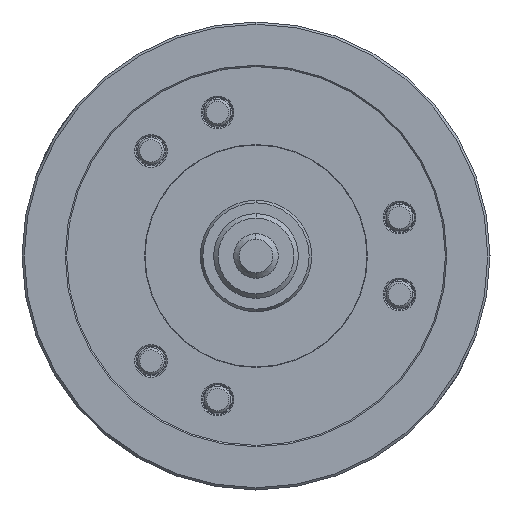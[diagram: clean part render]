
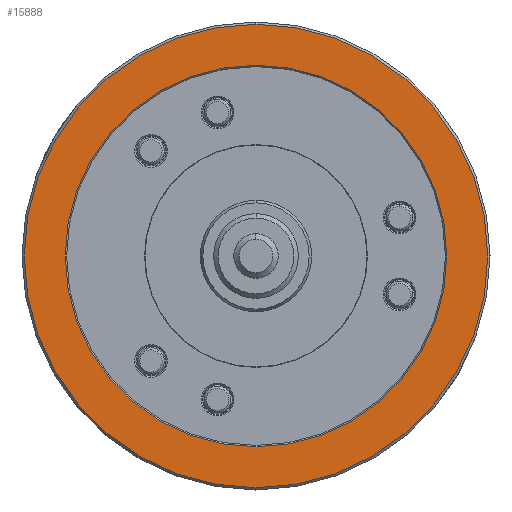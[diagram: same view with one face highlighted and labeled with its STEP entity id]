
A CAD part, left-side view. The second image highlights one B-rep face of the part: STEP entity #15888.
In plain terms, the highlighted planar face has unit normal (-1, 0, 0).
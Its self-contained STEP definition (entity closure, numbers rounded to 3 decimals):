
#1843 = DIRECTION ( 'NONE',  ( 0., 0., -1. ) ) ;
#2706 = CARTESIAN_POINT ( 'NONE',  ( -90., 0., -104. ) ) ;
#4561 = AXIS2_PLACEMENT_3D ( 'NONE', #30879, #33993, #15482 ) ;
#5476 = CIRCLE ( 'NONE', #24970, 85.6 ) ;
#6157 = ORIENTED_EDGE ( 'NONE', *, *, #37778, .F. ) ;
#6802 = EDGE_CURVE ( 'NONE', #14016, #32397, #5476, .T. ) ;
#7999 = CARTESIAN_POINT ( 'NONE',  ( -90., 0., 85.6 ) ) ;
#8230 = CIRCLE ( 'NONE', #18685, 104. ) ;
#8243 = EDGE_CURVE ( 'NONE', #32397, #14016, #17908, .T. ) ;
#8629 = CARTESIAN_POINT ( 'NONE',  ( -90., 0., 0. ) ) ;
#9870 = CARTESIAN_POINT ( 'NONE',  ( -90., 0., 0. ) ) ;
#11722 = DIRECTION ( 'NONE',  ( 0., 0., -1. ) ) ;
#13012 = DIRECTION ( 'NONE',  ( 0., 0., -1. ) ) ;
#13688 = CARTESIAN_POINT ( 'NONE',  ( -90., 0., -85.6 ) ) ;
#14016 = VERTEX_POINT ( 'NONE', #13688 ) ;
#14333 = DIRECTION ( 'NONE',  ( 1., 0., 0. ) ) ;
#15482 = DIRECTION ( 'NONE',  ( 0., 0., 1. ) ) ;
#15888 = ADVANCED_FACE ( 'NONE', ( #29503, #21254 ), #24648, .T. ) ;
#17908 = CIRCLE ( 'NONE', #34363, 85.6 ) ;
#18685 = AXIS2_PLACEMENT_3D ( 'NONE', #32832, #14333, #35933 ) ;
#18967 = VERTEX_POINT ( 'NONE', #2706 ) ;
#20124 = AXIS2_PLACEMENT_3D ( 'NONE', #8629, #30240, #11722 ) ;
#20299 = DIRECTION ( 'NONE',  ( 1., 0., 0. ) ) ;
#21254 = FACE_OUTER_BOUND ( 'NONE', #38146, .T. ) ;
#21944 = EDGE_CURVE ( 'NONE', #18967, #24189, #8230, .T. ) ;
#22380 = CARTESIAN_POINT ( 'NONE',  ( -90., 0., 104. ) ) ;
#24189 = VERTEX_POINT ( 'NONE', #22380 ) ;
#24412 = ORIENTED_EDGE ( 'NONE', *, *, #21944, .F. ) ;
#24648 = PLANE ( 'NONE',  #4561 ) ;
#24970 = AXIS2_PLACEMENT_3D ( 'NONE', #9870, #31481, #13012 ) ;
#29503 = FACE_BOUND ( 'NONE', #33016, .T. ) ;
#30240 = DIRECTION ( 'NONE',  ( 1., 0., 0. ) ) ;
#30879 = CARTESIAN_POINT ( 'NONE',  ( -90., 104., 0. ) ) ;
#31481 = DIRECTION ( 'NONE',  ( 1., 0., 0. ) ) ;
#32397 = VERTEX_POINT ( 'NONE', #7999 ) ;
#32832 = CARTESIAN_POINT ( 'NONE',  ( -90., 0., 0. ) ) ;
#33016 = EDGE_LOOP ( 'NONE', ( #36708, #33357 ) ) ;
#33357 = ORIENTED_EDGE ( 'NONE', *, *, #6802, .T. ) ;
#33993 = DIRECTION ( 'NONE',  ( -1., 0., 0. ) ) ;
#34363 = AXIS2_PLACEMENT_3D ( 'NONE', #38817, #20299, #1843 ) ;
#35933 = DIRECTION ( 'NONE',  ( 0., 0., -1. ) ) ;
#36708 = ORIENTED_EDGE ( 'NONE', *, *, #8243, .T. ) ;
#37778 = EDGE_CURVE ( 'NONE', #24189, #18967, #38654, .T. ) ;
#38146 = EDGE_LOOP ( 'NONE', ( #24412, #6157 ) ) ;
#38654 = CIRCLE ( 'NONE', #20124, 104. ) ;
#38817 = CARTESIAN_POINT ( 'NONE',  ( -90., 0., 0. ) ) ;
